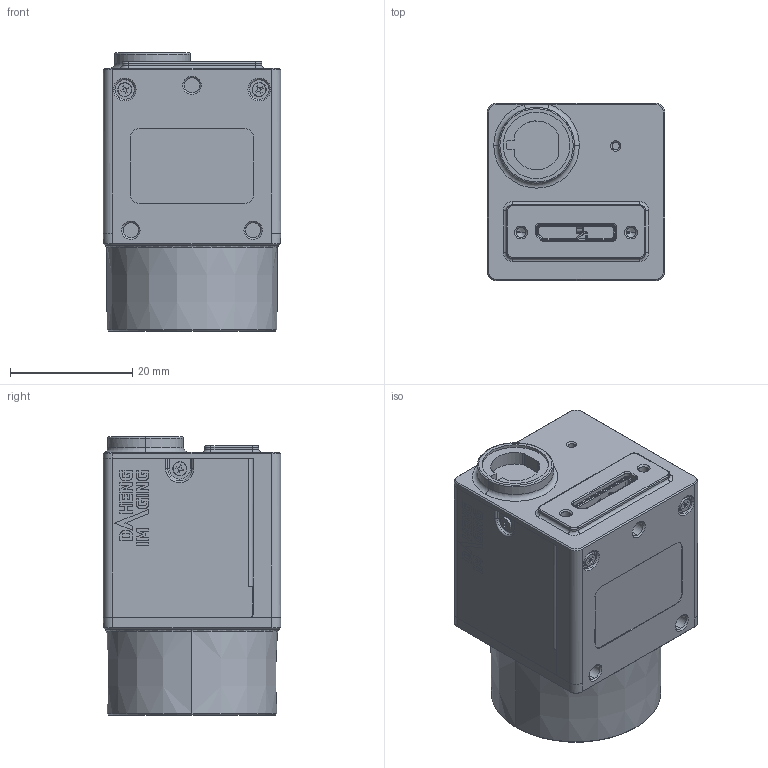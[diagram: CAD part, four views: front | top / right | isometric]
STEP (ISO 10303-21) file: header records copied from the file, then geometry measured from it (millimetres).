
FILE_DESCRIPTION (( 'STEP AP203' ), '1' );
FILE_NAME ('mer2_u3_user_a1.0.1.STEP', '2019-09-26T06:23:08', ( '' ), ( '' ), 'SwSTEP 2.0', 'SolidWorks 2016', '' );
FILE_SCHEMA (( 'CONFIG_CONTROL_DESIGN' ));
Length unit declared in the file: millimetre
Products named in the file (1): mer2_u3_user_a1.0.1
Bounding box: 29 x 29 x 45.5 mm (x, y, z)
Volume: 23014.5 mm3; surface area: 18114.6 mm2
Topology: 8 solids, 17 shells, 1854 faces, 5004 edges, 3181 vertices
Faces by surface type: plane 953, cylinder 585, torus 119, cone 102, bspline 93, sphere 2
Entity records: 62218 total; most frequent: CARTESIAN_POINT 16454, ORIENTED_EDGE 9964, DIRECTION 9028, EDGE_CURVE 4982, VERTEX_POINT 3181, VECTOR 3080, LINE 3080, AXIS2_PLACEMENT_3D 2974
